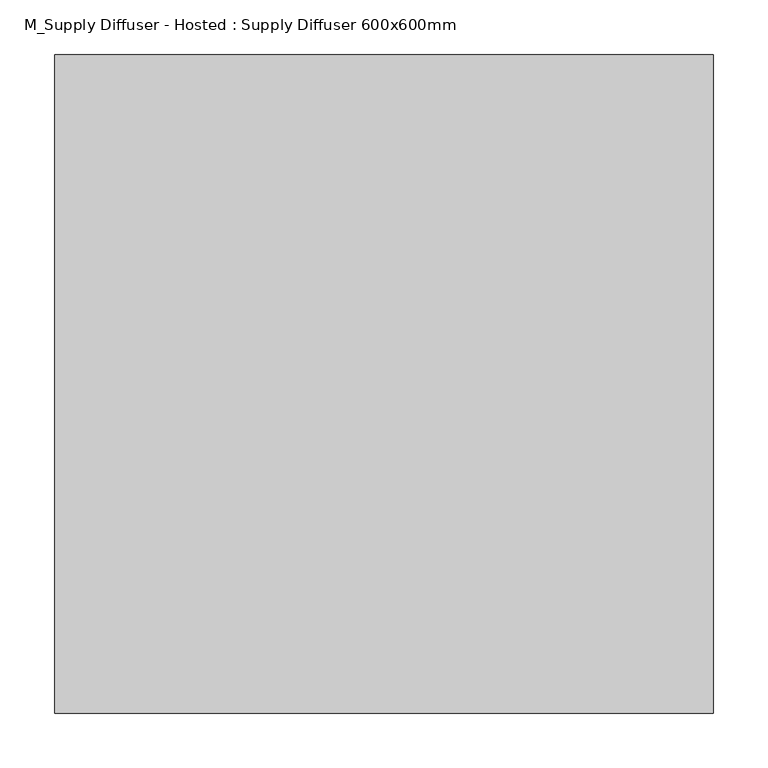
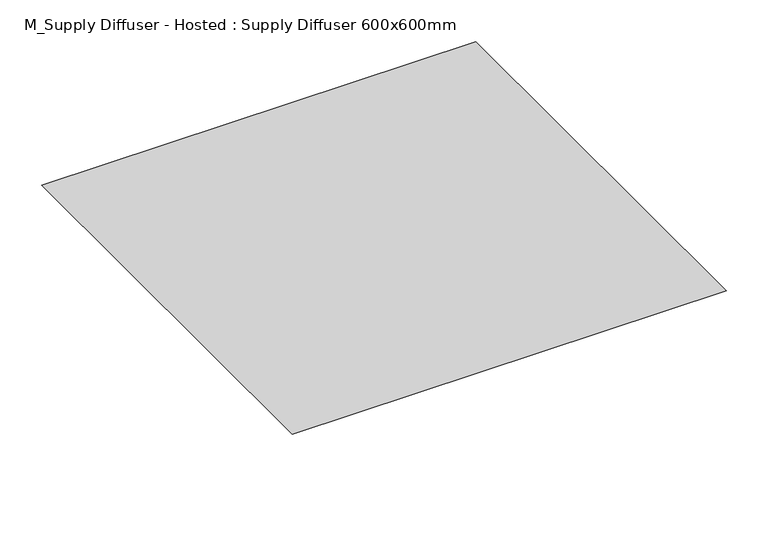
"""IFC4 building model written with IfcOpenShell, lengths in millimetres: air terminal geometry, M_Supply Diffuser - Hosted : Supply Diffuser 600x600mm."""

from ifc_helpers import new_model, si_unit, origin, place, context, project, spatial, faceted_brep, source, transform, mapped, element, save


def m_supply_diffuser_hosted_supply_diffuser_600x600mm_c6a520ad(model_context):
    return source(origin(), model_context, "Body", "Brep", [
        faceted_brep([(300.0, 300.0, 0.0), (-300.0, 300.0, 0.0), (-300.0, -300.0, 0.0), (300.0, -300.0, 0.0), (75.0, 75.0, -101.8523776), (75.0, -75.0, -101.8523776), (-75.0, -75.0, -101.8523776), (-75.0, 75.0, -101.8523776)], [[[0, 1, 2, 3]], [[4, 5, 6, 7]], [[4, 7, 1, 0]], [[7, 6, 2, 1]], [[6, 5, 3, 2]], [[5, 4, 0, 3]]]),
    ])


if __name__ == "__main__":
    model = new_model("IFC4")
    model_context = context("Model", 3, world=origin())
    ifc_project = project(units=[si_unit("LENGTHUNIT", "METRE", prefix="MILLI")], contexts=[model_context])
    site = spatial("IfcSite", under=ifc_project)
    building = spatial("IfcBuilding", under=site)
    placement = place(None, origin())
    m_supply_diffuser_hosted_supply_diffuser_600x600mm_shape = m_supply_diffuser_hosted_supply_diffuser_600x600mm_c6a520ad(model_context)
    element("IfcAirTerminal", 1, ObjectType="M_Supply Diffuser - Hosted : Supply Diffuser 600x600mm", at=placement, inside=building, context=model_context, shape_type="MappedRepresentation", body=[
        mapped(m_supply_diffuser_hosted_supply_diffuser_600x600mm_shape, transform((0.0, 0.0, 0.0), x_axis=(1.0, 0.0, 0.0), y_axis=(0.0, 1.0, 0.0), z_axis=(0.0, 0.0, 1.0))),
    ])
    save(model, "model.ifc")
